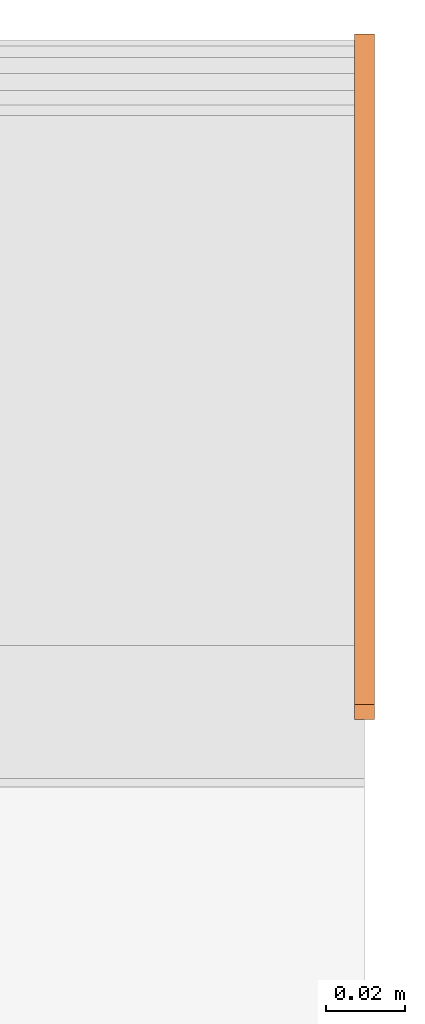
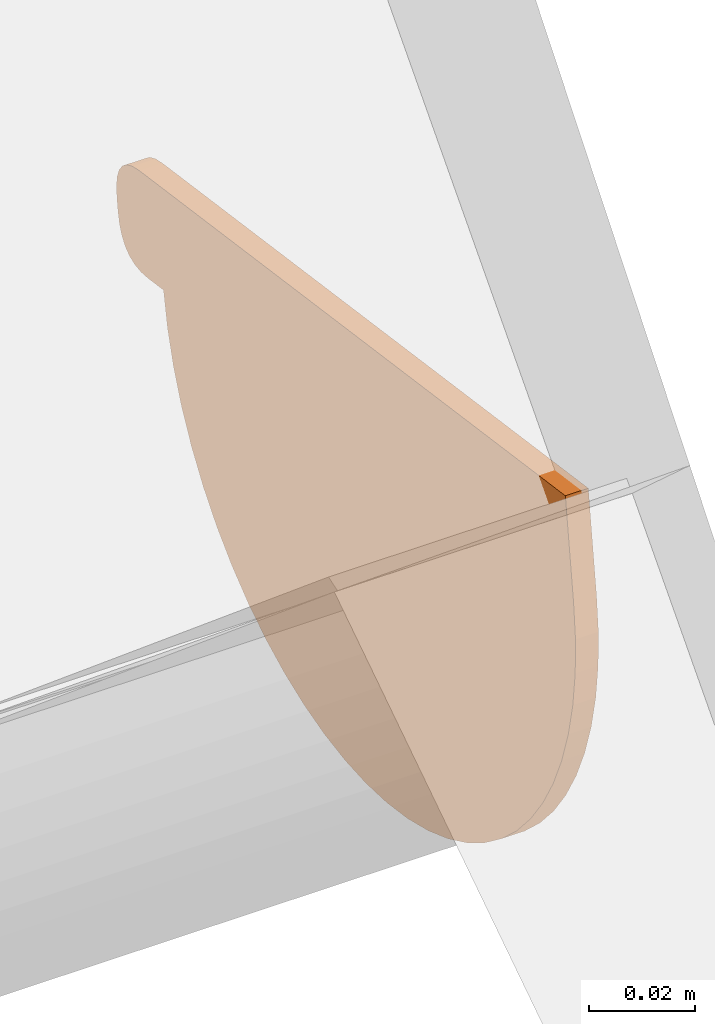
# One storey, part 42 of 43: 1 proxy.
"""IFC2X3 building model written with IfcOpenShell, lengths in millimetres."""

from ifc_helpers import new_model, si_unit, frame, origin_with_axes, place, context, project, spatial, faceted_brep, element, save


model = new_model("IFC2X3")

# Units and contexts
model_context = context("Model", 3, world=origin_with_axes())
ifc_project = project(units=[si_unit("LENGTHUNIT", "METRE", prefix="MILLI")], contexts=[model_context])

# Site, building, storey
site_placement = place(None, origin_with_axes())
site = spatial("IfcSite", under=ifc_project, at=site_placement, Name="Site", CompositionType="ELEMENT")
building_placement = place(site_placement, origin_with_axes())
building = spatial("IfcBuilding", under=site, at=building_placement, Name="?", CompositionType="ELEMENT")
storey_placement = place(building_placement, frame((0.0, 0.0, 5938.0), z_axis=(0.0, 0.0, 1.0), x_axis=(1.0, 0.0, 0.0)))
storey = spatial("IfcBuildingStorey", under=building, at=storey_placement, Name="Dachgeschoß", CompositionType="ELEMENT", Elevation=5938.0)

# Proxy
proxy_placement = place(None, origin_with_axes())
element("IfcBuildingElementProxy", 1, at=proxy_placement, inside=storey, Name="Dach01_RoofGutter#026", ObjectType="gutter", CompositionType="ELEMENT", context=model_context, shape_type="Brep", body=[
    faceted_brep([(18597.5, 656.250915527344, 6644.93896484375), (18602.5, 656.250915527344, 6644.93896484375), (18602.5, 654.756415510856, 6637.18036494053), (18597.5, 654.756415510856, 6637.18036494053), (18597.5, 654.756408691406, 6637.18017578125), (18602.5, 654.756408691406, 6637.18017578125), (18602.5, 652.484608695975, 6629.61247599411), (18597.5, 652.484608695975, 6629.61247599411), (18597.5, 652.484619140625, 6629.6123046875), (18602.5, 652.484619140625, 6629.6123046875), (18602.5, 649.458919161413, 6622.31340452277), (18597.5, 649.458919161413, 6622.31340452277), (18597.5, 649.458923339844, 6622.3134765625), (18602.5, 649.458923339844, 6622.3134765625), (18602.5, 645.710223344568, 6615.3580766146), (18597.5, 645.710223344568, 6615.3580766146), (18597.5, 645.710205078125, 6615.35791015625), (18602.5, 645.710205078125, 6615.35791015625), (18602.5, 641.277104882, 6608.817410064), (18597.5, 641.277104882, 6608.817410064), (18597.5, 641.277099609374, 6608.81787109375), (18602.5, 641.277099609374, 6608.81787109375), (18602.5, 636.205099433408, 6602.75937116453), (18597.5, 636.205099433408, 6602.75937116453), (18597.5, 636.205078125, 6602.75927734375), (18602.5, 636.205078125, 6602.75927734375), (18602.5, 630.546178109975, 6597.24507732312), (18597.5, 630.546178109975, 6597.24507732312), (18597.5, 630.546203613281, 6597.2451171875), (18602.5, 630.546203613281, 6597.2451171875), (18602.5, 624.358403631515, 6592.33171697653), (18597.5, 624.358403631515, 6592.33171697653), (18597.5, 624.3583984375, 6592.33154296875), (18602.5, 624.3583984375, 6592.33154296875), (18602.5, 617.705398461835, 6588.06924304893), (18597.5, 617.705398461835, 6588.06924304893), (18597.5, 617.705383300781, 6588.0693359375), (18602.5, 617.705383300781, 6588.0693359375), (18602.5, 610.655183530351, 6584.50213591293), (18597.5, 610.655183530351, 6584.50213591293), (18597.5, 610.655212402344, 6584.501953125), (18602.5, 610.655212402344, 6584.501953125), (18602.5, 603.280312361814, 6581.66625324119), (18597.5, 603.280312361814, 6581.66625324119), (18597.5, 603.2802734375, 6581.66650390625), (18602.5, 603.2802734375, 6581.66650390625), (18602.5, 595.656373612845, 6579.59140394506), (18597.5, 595.656373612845, 6579.59140394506), (18597.5, 595.656372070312, 6579.59130859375), (18602.5, 595.656372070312, 6579.59130859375), (18602.5, 587.861672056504, 6578.29820858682), (18597.5, 587.861672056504, 6578.29820858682), (18597.5, 587.861694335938, 6578.29833984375), (18602.5, 587.861694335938, 6578.29833984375), (18602.5, 579.976094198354, 6577.80043982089), (18597.5, 579.976094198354, 6577.80043982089), (18597.5, 579.97607421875, 6577.80029296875), (18602.5, 579.97607421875, 6577.80029296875), (18602.5, 572.080574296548, 6578.10269295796), (18597.5, 572.080574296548, 6578.10269295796), (18597.5, 572.080627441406, 6578.1025390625), (18602.5, 572.080627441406, 6578.1025390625), (18602.5, 564.256227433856, 6579.20223903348), (18597.5, 564.256227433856, 6579.20223903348), (18597.5, 564.256225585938, 6579.2021484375), (18602.5, 564.256225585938, 6579.2021484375), (18602.5, 556.583225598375, 6581.08764841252), (18597.5, 556.583225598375, 6581.08764841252), (18597.5, 556.583190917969, 6581.087890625), (18602.5, 556.583190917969, 6581.087890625), (18602.5, 549.140391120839, 6583.74009059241), (18597.5, 549.140391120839, 6583.74009059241), (18597.5, 549.140380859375, 6583.740234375), (18602.5, 549.140380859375, 6583.740234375), (18602.5, 542.003980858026, 6587.13183440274), (18597.5, 542.003980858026, 6587.13183440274), (18597.5, 542.004028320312, 6587.1318359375), (18602.5, 542.004028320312, 6587.1318359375), (18602.5, 535.247428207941, 6591.22793584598), (18597.5, 535.247428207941, 6591.22793584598), (18597.5, 535.247375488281, 6591.2275390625), (18602.5, 535.247375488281, 6591.2275390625), (18602.5, 528.939875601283, 6595.98613897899), (18597.5, 528.939875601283, 6595.98613897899), (18597.5, 528.939880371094, 6595.986328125), (18602.5, 528.939880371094, 6595.986328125), (18602.5, 523.146080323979, 6601.35872833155), (18597.5, 523.146080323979, 6601.35872833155), (18597.5, 523.146118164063, 6601.35888671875), (18602.5, 523.146118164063, 6601.35888671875), (18602.5, 517.925618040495, 6607.28988671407), (18597.5, 517.925618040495, 6607.28988671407), (18597.5, 517.925598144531, 6607.28955078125), (18602.5, 517.925598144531, 6607.28955078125), (18602.5, 513.331798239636, 6613.71815090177), (18597.5, 513.331798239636, 6613.71815090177), (18597.5, 513.331787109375, 6613.71826171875), (18602.5, 513.331787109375, 6613.71826171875), (18602.5, 509.412087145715, 6620.57876151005), (18597.5, 509.412087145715, 6620.57876151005), (18597.5, 509.412109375, 6620.57861328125), (18602.5, 509.412109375, 6620.57861328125), (18602.5, 506.206509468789, 6627.80031313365), (18597.5, 506.206509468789, 6627.80031313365), (18597.5, 506.206512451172, 6627.80078125), (18602.5, 506.206512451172, 6627.80078125), (18602.5, 503.747912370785, 6635.30988116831), (18597.5, 503.747912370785, 6635.30988116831), (18597.5, 503.747894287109, 6635.3095703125), (18602.5, 503.747894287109, 6635.3095703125), (18602.5, 502.061694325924, 6643.02877046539), (18597.5, 502.061694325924, 6643.02877046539), (18597.5, 502.061706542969, 6643.02880859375), (18602.5, 502.061706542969, 6643.02880859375), (18602.5, 501.165006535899, 6650.87910882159), (18597.5, 501.165006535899, 6650.87910882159), (18597.5, 501.165008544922, 6650.87939453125), (18602.5, 501.165008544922, 6650.87939453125), (18602.5, 501.067208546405, 6658.77999466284), (18597.5, 501.067208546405, 6658.77999466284), (18597.5, 501.067199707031, 6658.77978515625), (18602.5, 501.067199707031, 6658.77978515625), (18602.5, 501.769099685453, 6666.64988526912), (18597.5, 501.769099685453, 6666.64988526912), (18597.5, 501.769104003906, 6666.64990234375), (18602.5, 501.769104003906, 6666.64990234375), (18602.5, 579.010002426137, 6655.79430188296), (18597.5, 579.010002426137, 6655.79430188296), (18597.5, 579.010009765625, 6655.79443359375), (18602.5, 579.010009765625, 6655.79443359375), (18602.5, 656.250908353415, 6644.93893386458), (18597.5, 656.250908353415, 6644.93893386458), (18597.5, 579.010009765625, 6655.79443359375), (18597.5, 502.061709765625, 6643.02903359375), (18597.5, 501.067209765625, 6658.77993359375), (18597.5, 501.769109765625, 6666.65003359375), (18597.5, 501.067199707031, 6658.77978515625), (18597.5, 502.061699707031, 6643.02888515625), (18597.5, 501.164999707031, 6650.87918515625), (18597.5, 502.061706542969, 6643.02880859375), (18597.5, 513.331806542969, 6613.71830859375), (18597.5, 506.206506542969, 6627.80050859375), (18597.5, 503.747906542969, 6635.30960859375), (18597.5, 506.206512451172, 6627.80078125), (18597.5, 513.331812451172, 6613.71858125), (18597.5, 509.412112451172, 6620.57908125), (18597.5, 579.010009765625, 6655.79443359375), (18597.5, 564.256209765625, 6579.20253359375), (18597.5, 513.331809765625, 6613.71853359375), (18597.5, 502.061709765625, 6643.02903359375), (18597.5, 513.331787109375, 6613.71826171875), (18597.5, 535.247387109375, 6591.22766171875), (18597.5, 523.146087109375, 6601.35866171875), (18597.5, 517.925587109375, 6607.28966171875), (18597.5, 523.146118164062, 6601.35888671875), (18597.5, 535.247418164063, 6591.22788671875), (18597.5, 528.939918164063, 6595.98648671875), (18597.5, 535.247375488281, 6591.2275390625), (18597.5, 564.256175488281, 6579.2021390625), (18597.5, 549.140375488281, 6583.7398390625), (18597.5, 542.003975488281, 6587.1314390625), (18597.5, 549.140380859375, 6583.740234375), (18597.5, 564.256180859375, 6579.202534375), (18597.5, 556.583180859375, 6581.088034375), (18597.5, 513.331787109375, 6613.71826171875), (18597.5, 564.256187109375, 6579.20226171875), (18597.5, 535.247387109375, 6591.22766171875), (18597.5, 564.256225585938, 6579.2021484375), (18597.5, 595.656425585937, 6579.5910484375), (18597.5, 579.976125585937, 6577.8000484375), (18597.5, 572.080625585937, 6578.1024484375), (18597.5, 579.97607421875, 6577.80029296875), (18597.5, 595.65637421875, 6579.59129296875), (18597.5, 587.86167421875, 6578.29819296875), (18597.5, 595.656372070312, 6579.59130859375), (18597.5, 624.358372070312, 6592.33160859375), (18597.5, 610.655172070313, 6584.50210859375), (18597.5, 603.280272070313, 6581.66640859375), (18597.5, 610.655212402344, 6584.501953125), (18597.5, 624.358412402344, 6592.331453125), (18597.5, 617.705412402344, 6588.069153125), (18597.5, 564.256225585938, 6579.2021484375), (18597.5, 579.010025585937, 6655.7940484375), (18597.5, 624.358425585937, 6592.3313484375), (18597.5, 595.656425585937, 6579.5910484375), (18597.5, 624.3583984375, 6592.33154296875), (18597.5, 645.7101984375, 6615.35814296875), (18597.5, 636.2050984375, 6602.75914296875), (18597.5, 630.5461984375, 6597.24494296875), (18597.5, 636.205078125, 6602.75927734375), (18597.5, 645.710178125, 6615.35827734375), (18597.5, 641.277078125, 6608.81777734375), (18597.5, 579.010009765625, 6655.79443359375), (18597.5, 652.484609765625, 6629.61263359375), (18597.5, 645.710209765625, 6615.35833359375), (18597.5, 624.358409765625, 6592.33173359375), (18597.5, 645.710205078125, 6615.35791015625), (18597.5, 652.484605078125, 6629.61221015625), (18597.5, 649.458905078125, 6622.31331015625), (18597.5, 579.010009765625, 6655.79443359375), (18597.5, 656.250909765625, 6644.93893359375), (18597.5, 654.756409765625, 6637.18033359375), (18597.5, 652.484609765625, 6629.61263359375), (18602.5, 654.756408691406, 6637.18017578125), (18602.5, 641.277108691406, 6608.81767578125), (18602.5, 649.458908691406, 6622.31357578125), (18602.5, 652.484608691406, 6629.61247578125), (18602.5, 649.458923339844, 6622.3134765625), (18602.5, 641.277123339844, 6608.8175765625), (18602.5, 645.710223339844, 6615.3580765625), (18602.5, 641.277099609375, 6608.81787109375), (18602.5, 617.705399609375, 6588.06947109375), (18602.5, 630.546199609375, 6597.24517109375), (18602.5, 636.205099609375, 6602.75937109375), (18602.5, 630.546203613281, 6597.2451171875), (18602.5, 617.705403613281, 6588.0694171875), (18602.5, 624.358403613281, 6592.3317171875), (18602.5, 654.756408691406, 6637.18017578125), (18602.5, 556.583208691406, 6581.08787578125), (18602.5, 617.705408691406, 6588.06927578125), (18602.5, 641.277108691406, 6608.81767578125), (18602.5, 617.705383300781, 6588.0693359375), (18602.5, 587.861683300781, 6578.2982359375), (18602.5, 603.280283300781, 6581.6664359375), (18602.5, 610.655183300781, 6584.5021359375), (18602.5, 603.2802734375, 6581.66650390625), (18602.5, 587.8616734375, 6578.29830390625), (18602.5, 595.6563734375, 6579.59140390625), (18602.5, 587.861694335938, 6578.29833984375), (18602.5, 556.583194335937, 6581.08803984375), (18602.5, 572.080594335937, 6578.10283984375), (18602.5, 579.976094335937, 6577.80043984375), (18602.5, 572.080627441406, 6578.1025390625), (18602.5, 556.583227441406, 6581.0877390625), (18602.5, 564.256227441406, 6579.2022390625), (18602.5, 617.705383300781, 6588.0693359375), (18602.5, 556.583183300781, 6581.0879359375), (18602.5, 587.861683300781, 6578.2982359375), (18602.5, 556.583190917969, 6581.087890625), (18602.5, 528.939890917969, 6595.986390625), (18602.5, 542.003990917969, 6587.131690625), (18602.5, 549.140390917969, 6583.740090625), (18602.5, 542.004028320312, 6587.1318359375), (18602.5, 528.939928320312, 6595.9865359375), (18602.5, 535.247428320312, 6591.2279359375), (18602.5, 528.939880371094, 6595.986328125), (18602.5, 509.412080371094, 6620.578828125), (18602.5, 517.925580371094, 6607.289728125), (18602.5, 523.146080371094, 6601.358728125), (18602.5, 517.925598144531, 6607.28955078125), (18602.5, 509.412098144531, 6620.57865078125), (18602.5, 513.331798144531, 6613.71815078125), (18602.5, 556.583190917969, 6581.087890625), (18602.5, 654.756390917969, 6637.180190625), (18602.5, 509.412090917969, 6620.578890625), (18602.5, 528.939890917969, 6595.986390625), (18602.5, 509.412109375, 6620.57861328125), (18602.5, 501.165009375, 6650.87891328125), (18602.5, 503.747909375, 6635.30941328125), (18602.5, 506.206509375, 6627.80031328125), (18602.5, 503.747894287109, 6635.3095703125), (18602.5, 501.164994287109, 6650.8790703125), (18602.5, 502.061694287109, 6643.0287703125), (18602.5, 654.756408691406, 6637.18017578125), (18602.5, 501.769108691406, 6666.64987578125), (18602.5, 501.165008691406, 6650.87917578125), (18602.5, 509.412108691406, 6620.57887578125), (18602.5, 501.165008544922, 6650.87939453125), (18602.5, 501.769108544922, 6666.65009453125), (18602.5, 501.067208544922, 6658.77999453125), (18602.5, 654.756408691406, 6637.18017578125), (18602.5, 656.250908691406, 6644.93877578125), (18602.5, 579.010008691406, 6655.79427578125), (18602.5, 501.769108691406, 6666.64987578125), (18602.5, 501.769104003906, 6666.64990234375), (18597.5, 501.769104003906, 6666.64990234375), (18597.5, 662.090608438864, 6644.10700284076), (18602.5, 662.090608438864, 6644.10700284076), (18602.5, 504.8671875, 6689.42919921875), (18602.5, 665.291587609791, 6666.8829997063), (18597.5, 665.291587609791, 6666.8829997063), (18597.5, 504.8671875, 6689.42919921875), (18602.5, 501.769104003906, 6666.64990234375), (18602.5, 504.867203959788, 6689.42940178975), (18597.5, 504.867203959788, 6689.42940178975), (18597.5, 501.769104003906, 6666.64990234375), (18597.5, 501.769104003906, 6666.64990234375), (18597.5, 667.054004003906, 6644.23370234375), (18597.5, 664.746004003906, 6643.93990234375), (18597.5, 662.090604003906, 6644.10700234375), (18597.5, 501.769104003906, 6666.64990234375), (18597.5, 670.628004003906, 6646.20420234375), (18597.5, 669.014704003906, 6644.98850234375), (18597.5, 667.054004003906, 6644.23370234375), (18597.5, 501.769104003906, 6666.64990234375), (18597.5, 672.812604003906, 6650.01850234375), (18597.5, 671.894004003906, 6647.88090234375), (18597.5, 670.628004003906, 6646.20420234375), (18597.5, 501.769104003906, 6666.64990234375), (18597.5, 665.291604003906, 6666.88320234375), (18597.5, 673.383904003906, 6652.61710234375), (18597.5, 672.812604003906, 6650.01850234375), (18597.5, 673.383911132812, 6652.6171875), (18597.5, 673.675011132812, 6660.5533875), (18597.5, 673.968811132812, 6658.2453875), (18597.5, 673.801711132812, 6655.5899875), (18597.5, 673.383911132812, 6652.6171875), (18597.5, 671.704511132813, 6664.1273875), (18597.5, 672.920211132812, 6662.5140875), (18597.5, 673.675011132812, 6660.5533875), (18597.5, 673.383911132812, 6652.6171875), (18597.5, 667.890211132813, 6666.3119875), (18597.5, 670.027811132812, 6665.3933875), (18597.5, 671.704511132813, 6664.1273875), (18597.5, 673.383911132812, 6652.6171875), (18597.5, 665.291611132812, 6666.8832875), (18597.5, 667.890211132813, 6666.3119875), (18597.5, 501.769104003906, 6666.64990234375), (18597.5, 504.867204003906, 6689.42940234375), (18597.5, 665.291604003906, 6666.88320234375), (18597.5, 673.383911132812, 6652.6171875), (18597.5, 673.801711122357, 6655.58998747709), (18602.5, 673.801711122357, 6655.58998747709), (18602.5, 673.383911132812, 6652.6171875), (18602.5, 662.090576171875, 6644.10693359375), (18602.5, 673.801676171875, 6655.58983359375), (18602.5, 504.867176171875, 6689.42933359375), (18602.5, 501.769076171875, 6666.64983359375), (18602.5, 504.8671875, 6689.42919921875), (18602.5, 670.0277875, 6665.39309921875), (18602.5, 667.8901875, 6666.31169921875), (18602.5, 665.2915875, 6666.88299921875), (18602.5, 504.8671875, 6689.42919921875), (18602.5, 672.9201875, 6662.51379921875), (18602.5, 671.7044875, 6664.12709921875), (18602.5, 670.0277875, 6665.39309921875), (18602.5, 504.8671875, 6689.42919921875), (18602.5, 673.9687875, 6658.24509921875), (18602.5, 673.6749875, 6660.55309921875), (18602.5, 672.9201875, 6662.51379921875), (18602.5, 504.8671875, 6689.42919921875), (18602.5, 673.8016875, 6655.58969921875), (18602.5, 673.9687875, 6658.24509921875), (18602.5, 664.745971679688, 6643.93994140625), (18602.5, 667.053971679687, 6644.23374140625), (18602.5, 673.801671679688, 6655.58994140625), (18602.5, 662.090571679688, 6644.10704140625), (18602.5, 669.014709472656, 6644.98828125), (18602.5, 670.628009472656, 6646.20398125), (18602.5, 673.801709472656, 6655.58968125), (18602.5, 667.054009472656, 6644.23348125), (18602.5, 671.893981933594, 6647.880859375), (18602.5, 672.812581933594, 6650.018459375), (18602.5, 673.801681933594, 6655.589859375), (18602.5, 670.627981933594, 6646.204159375), (18602.5, 673.383911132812, 6652.6171875), (18602.5, 673.801711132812, 6655.5899875), (18602.5, 672.812611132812, 6650.0185875), (18597.5, 664.745971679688, 6643.93994140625), (18602.5, 664.745971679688, 6643.93994140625), (18602.5, 662.090571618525, 6644.10704139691), (18597.5, 662.090571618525, 6644.10704139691), (18602.5, 667.890197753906, 6666.31201171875), (18597.5, 667.890197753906, 6666.31201171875), (18597.5, 665.291597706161, 6666.88331171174), (18602.5, 665.291597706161, 6666.88331171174), (18597.5, 667.054016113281, 6644.23388671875), (18602.5, 667.054016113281, 6644.23388671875), (18602.5, 664.746016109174, 6643.9400867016), (18597.5, 664.746016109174, 6643.9400867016), (18597.5, 669.014709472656, 6644.98828125), (18602.5, 669.014709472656, 6644.98828125), (18602.5, 667.054009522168, 6644.23348128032), (18597.5, 667.054009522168, 6644.23348128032), (18597.5, 670.627990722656, 6646.2041015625), (18602.5, 670.627990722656, 6646.2041015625), (18602.5, 669.014690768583, 6644.98840159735), (18597.5, 669.014690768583, 6644.98840159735), (18597.5, 671.893981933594, 6647.880859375), (18602.5, 671.893981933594, 6647.880859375), (18602.5, 670.627981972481, 6646.20415938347), (18597.5, 670.627981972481, 6646.20415938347), (18597.5, 672.812622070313, 6650.0185546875), (18602.5, 672.812622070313, 6650.0185546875), (18602.5, 671.894022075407, 6647.88095474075), (18597.5, 671.894022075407, 6647.88095474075), (18597.5, 673.383911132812, 6652.6171875), (18602.5, 673.383911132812, 6652.6171875), (18602.5, 672.812611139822, 6650.01858745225), (18597.5, 672.812611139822, 6650.01858745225), (18602.5, 670.027770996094, 6665.39306640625), (18597.5, 670.027770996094, 6665.39306640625), (18597.5, 667.890171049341, 6666.31166640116), (18602.5, 667.890171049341, 6666.31166640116), (18602.5, 671.704528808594, 6664.12744140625), (18597.5, 671.704528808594, 6664.12744140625), (18597.5, 670.027828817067, 6665.39344136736), (18602.5, 670.027828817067, 6665.39344136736), (18602.5, 672.920227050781, 6662.51416015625), (18597.5, 672.920227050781, 6662.51416015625), (18597.5, 671.704527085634, 6664.12746011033), (18602.5, 671.704527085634, 6664.12746011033), (18602.5, 673.674987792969, 6660.55322265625), (18597.5, 673.674987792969, 6660.55322265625), (18597.5, 672.920187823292, 6662.51392260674), (18602.5, 672.920187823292, 6662.51392260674), (18602.5, 673.968811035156, 6658.2451171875), (18597.5, 673.968811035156, 6658.2451171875), (18597.5, 673.675011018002, 6660.55311719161), (18602.5, 673.675011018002, 6660.55311719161), (18602.5, 673.801696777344, 6655.58984375), (18597.5, 673.801696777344, 6655.58984375), (18597.5, 673.968796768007, 6658.24524381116), (18602.5, 673.968796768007, 6658.24524381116)], [[[0, 1, 2, 3]], [[4, 5, 6, 7]], [[8, 9, 10, 11]], [[12, 13, 14, 15]], [[16, 17, 18, 19]], [[20, 21, 22, 23]], [[24, 25, 26, 27]], [[28, 29, 30, 31]], [[32, 33, 34, 35]], [[36, 37, 38, 39]], [[40, 41, 42, 43]], [[44, 45, 46, 47]], [[48, 49, 50, 51]], [[52, 53, 54, 55]], [[56, 57, 58, 59]], [[60, 61, 62, 63]], [[64, 65, 66, 67]], [[68, 69, 70, 71]], [[72, 73, 74, 75]], [[76, 77, 78, 79]], [[80, 81, 82, 83]], [[84, 85, 86, 87]], [[88, 89, 90, 91]], [[92, 93, 94, 95]], [[96, 97, 98, 99]], [[100, 101, 102, 103]], [[104, 105, 106, 107]], [[108, 109, 110, 111]], [[112, 113, 114, 115]], [[116, 117, 118, 119]], [[120, 121, 122, 123]], [[124, 125, 126, 127]], [[128, 129, 130, 131]], [[132, 133, 134, 135]], [[136, 137, 138]], [[139, 140, 141, 142]], [[143, 144, 145]], [[146, 147, 148, 149]], [[150, 151, 152, 153]], [[154, 155, 156]], [[157, 158, 159, 160]], [[161, 162, 163]], [[164, 165, 166]], [[167, 168, 169, 170]], [[171, 172, 173]], [[174, 175, 176, 177]], [[178, 179, 180]], [[181, 182, 183, 184]], [[185, 186, 187, 188]], [[189, 190, 191]], [[192, 193, 194, 195]], [[196, 197, 198]], [[199, 200, 201, 202]], [[203, 204, 205, 206]], [[207, 208, 209]], [[210, 211, 212, 213]], [[214, 215, 216]], [[217, 218, 219, 220]], [[221, 222, 223, 224]], [[225, 226, 227]], [[228, 229, 230, 231]], [[232, 233, 234]], [[235, 236, 237]], [[238, 239, 240, 241]], [[242, 243, 244]], [[245, 246, 247, 248]], [[249, 250, 251]], [[252, 253, 254, 255]], [[256, 257, 258, 259]], [[260, 261, 262]], [[263, 264, 265, 266]], [[267, 268, 269]], [[270, 271, 272, 273]], [[274, 275, 276, 277]], [[278, 279, 280, 281]], [[282, 283, 284, 285]], [[286, 287, 288, 289]], [[290, 291, 292, 293]], [[294, 295, 296, 297]], [[298, 299, 300, 301]], [[302, 303, 304, 305]], [[306, 307, 308, 309]], [[310, 311, 312, 313]], [[314, 315, 316]], [[317, 318, 319]], [[320, 321, 322, 323]], [[324, 325, 326, 327]], [[328, 329, 330, 331]], [[332, 333, 334, 335]], [[336, 337, 338, 339]], [[340, 341, 342]], [[343, 344, 345, 346]], [[347, 348, 349, 350]], [[351, 352, 353, 354]], [[355, 356, 357]], [[358, 359, 360, 361]], [[362, 363, 364, 365]], [[366, 367, 368, 369]], [[370, 371, 372, 373]], [[374, 375, 376, 377]], [[378, 379, 380, 381]], [[382, 383, 384, 385]], [[386, 387, 388, 389]], [[390, 391, 392, 393]], [[394, 395, 396, 397]], [[398, 399, 400, 401]], [[402, 403, 404, 405]], [[406, 407, 408, 409]], [[410, 411, 412, 413]]]),
])

save(model, "model.ifc")
